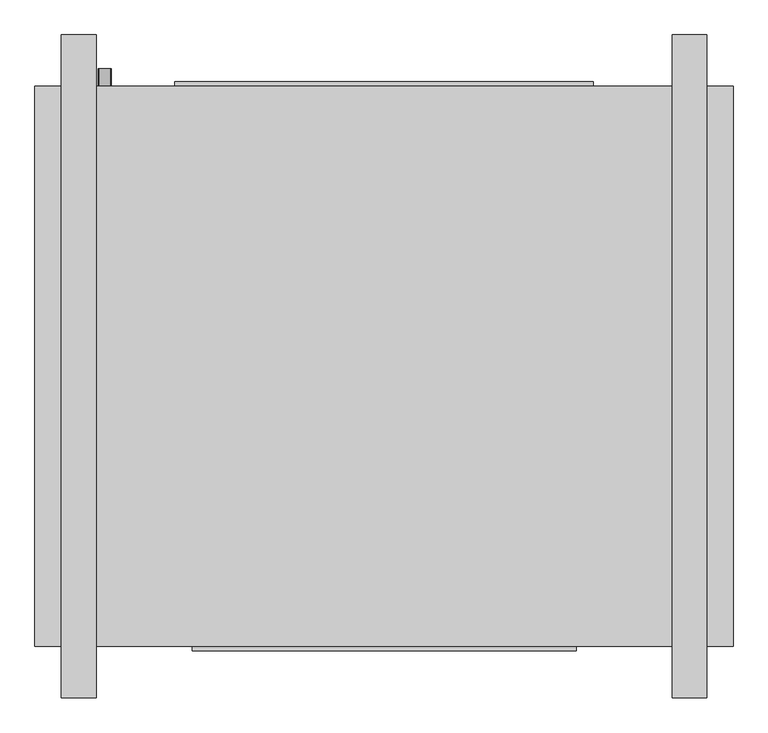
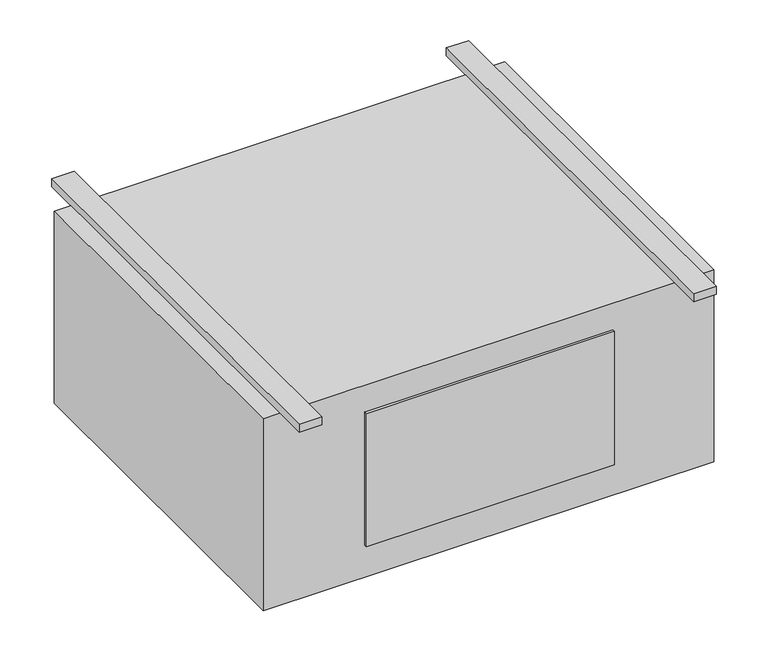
"""IFC4 building model written with IfcOpenShell, lengths in millimetres: proxy geometry, Exposed_High_Capacity_Horizontal_Cabinet_Fan_Coil_Unit_-_42DFA_-_CARRIER_-_4-Pipe_LH_2022 : Size 10 - 277v/60Hz/1Ph - 6/2 Coil."""

from ifc_helpers import new_model, si_unit, point, frame, frame_2d, origin, origin_with_axes, place, context, project, spatial, polyline, circle_curve, trimmed, segment, composite_curve, outline, extrude, source, transform, mapped, element, save


def mechanical_equipment_82f79ed9(model_context):
    return source(origin(), model_context, "Body", "SweptSolid", [
        extrude(outline(composite_curve([segment(trimmed(circle_curve(frame_2d((-406.4, -254.0)), 9.525), [point((-406.4, -263.525))], [point((-406.4, -244.475))], False, "CARTESIAN"), True, "CONTINUOUS"), segment(trimmed(circle_curve(frame_2d((-406.4, -254.0)), 9.525), [point((-406.4, -244.475))], [point((-406.4, -263.525))], False, "CARTESIAN"), True, "CONTINUOUS")], self_intersect=False)), frame((0.0, 169.8625, 0.0), z_axis=(0.0, 1.0, 0.0), x_axis=(0.0, 0.0, 1.0)), (0.0, 0.0, 1.0), 25.4),
        extrude(outline(composite_curve([segment(trimmed(circle_curve(frame_2d((-330.2, -254.0)), 7.9375), [point((-330.2, -261.9375))], [point((-330.2, -246.0625))], False, "CARTESIAN"), True, "CONTINUOUS"), segment(trimmed(circle_curve(frame_2d((-330.2, -254.0)), 7.9375), [point((-330.2, -246.0625))], [point((-330.2, -261.9375))], False, "CARTESIAN"), True, "CONTINUOUS")], self_intersect=False)), frame((0.0, 169.8625, 0.0), z_axis=(0.0, 1.0, 0.0), x_axis=(0.0, 0.0, 1.0)), (0.0, 0.0, 1.0), 25.4),
        extrude(outline(composite_curve([segment(trimmed(circle_curve(frame_2d((-254.0, -254.0)), 7.9375), [point((-254.0, -261.9375))], [point((-254.0, -246.0625))], False, "CARTESIAN"), True, "CONTINUOUS"), segment(trimmed(circle_curve(frame_2d((-254.0, -254.0)), 7.9375), [point((-254.0, -246.0625))], [point((-254.0, -261.9375))], False, "CARTESIAN"), True, "CONTINUOUS")], self_intersect=False)), frame((0.0, 169.8625, 0.0), z_axis=(0.0, 1.0, 0.0), x_axis=(0.0, 0.0, 1.0)), (0.0, 0.0, 1.0), 25.4),
        extrude(outline(composite_curve([segment(trimmed(circle_curve(frame_2d((-177.8, -254.0)), 7.9375), [point((-177.8, -261.9375))], [point((-177.8, -246.0625))], False, "CARTESIAN"), True, "CONTINUOUS"), segment(trimmed(circle_curve(frame_2d((-177.8, -254.0)), 7.9375), [point((-177.8, -246.0625))], [point((-177.8, -261.9375))], False, "CARTESIAN"), True, "CONTINUOUS")], self_intersect=False)), frame((0.0, 169.8625, 0.0), z_axis=(0.0, 1.0, 0.0), x_axis=(0.0, 0.0, 1.0)), (0.0, 0.0, 1.0), 25.4),
        extrude(outline(composite_curve([segment(trimmed(circle_curve(frame_2d((-101.6, -254.0)), 7.9375), [point((-101.6, -261.9375))], [point((-101.6, -246.0625))], False, "CARTESIAN"), True, "CONTINUOUS"), segment(trimmed(circle_curve(frame_2d((-101.6, -254.0)), 7.9375), [point((-101.6, -246.0625))], [point((-101.6, -261.9375))], False, "CARTESIAN"), True, "CONTINUOUS")], self_intersect=False)), frame((0.0, 169.8625, 0.0), z_axis=(0.0, 1.0, 0.0), x_axis=(0.0, 0.0, 1.0)), (0.0, 0.0, 1.0), 25.4),
        extrude(outline(polyline([(660.4, 169.8625), (660.4, -646.1125), (-355.6, -646.1125), (-355.6, 169.8625), (660.4, 169.8625)])), frame((0.0, 0.0, -457.2), z_axis=(0.0, 0.0, 1.0), x_axis=(1.0, 0.0, 0.0)), (0.0, 0.0, 1.0), 457.2),
        extrude(outline(polyline([(-152.4, 176.2125), (457.2, 176.2125), (457.2, 169.8625), (-152.4, 169.8625), (-152.4, 176.2125)])), frame((0.0, 0.0, -381.0), z_axis=(0.0, 0.0, 1.0), x_axis=(1.0, 0.0, 0.0)), (0.0, 0.0, 1.0), 355.6),
        extrude(outline(polyline([(-266.7, 244.475), (-266.7, -720.725), (-317.5, -720.725), (-317.5, 244.475), (-266.7, 244.475)])), origin_with_axes(), (0.0, 0.0, 1.0), 19.05),
        extrude(outline(polyline([(622.3, 244.475), (622.3, -720.725), (571.5, -720.725), (571.5, 244.475), (622.3, 244.475)])), origin_with_axes(), (0.0, 0.0, 1.0), 19.05),
        extrude(outline(polyline([(431.8, -652.4625), (-127.0, -652.4625), (-127.0, -646.1125), (431.8, -646.1125), (431.8, -652.4625)])), frame((0.0, 0.0, -381.0), z_axis=(0.0, 0.0, 1.0), x_axis=(1.0, 0.0, 0.0)), (0.0, 0.0, 1.0), 317.5),
    ])


if __name__ == "__main__":
    model = new_model("IFC4")
    model_context = context("Model", 3, world=origin())
    ifc_project = project(units=[si_unit("LENGTHUNIT", "METRE", prefix="MILLI")], contexts=[model_context])
    site = spatial("IfcSite", under=ifc_project)
    building = spatial("IfcBuilding", under=site)
    placement = place(None, origin())
    mechanical_equipment_shape = mechanical_equipment_82f79ed9(model_context)
    element("IfcBuildingElementProxy", 1, Name="Exposed_High_Capacity_Horizontal_Cabinet_Fan_Coil_Unit_-_42DFA_-_CARRIER_-_4-Pipe_LH_2022 : Size 10 - 277v/60Hz/1Ph - 6/2 Coil", ObjectType="Exposed_High_Capacity_Horizontal_Cabinet_Fan_Coil_Unit_-_42DFA_-_CARRIER_-_4-Pipe_LH_2022 : Size 10 - 277v/60Hz/1Ph - 6/2 Coil", at=placement, inside=building, context=model_context, shape_type="MappedRepresentation", body=[
        mapped(mechanical_equipment_shape, transform((0.0, 0.0, 0.0), x_axis=(1.0, 0.0, 0.0), y_axis=(0.0, 1.0, 0.0), z_axis=(0.0, 0.0, 1.0))),
    ])
    save(model, "model.ifc")
